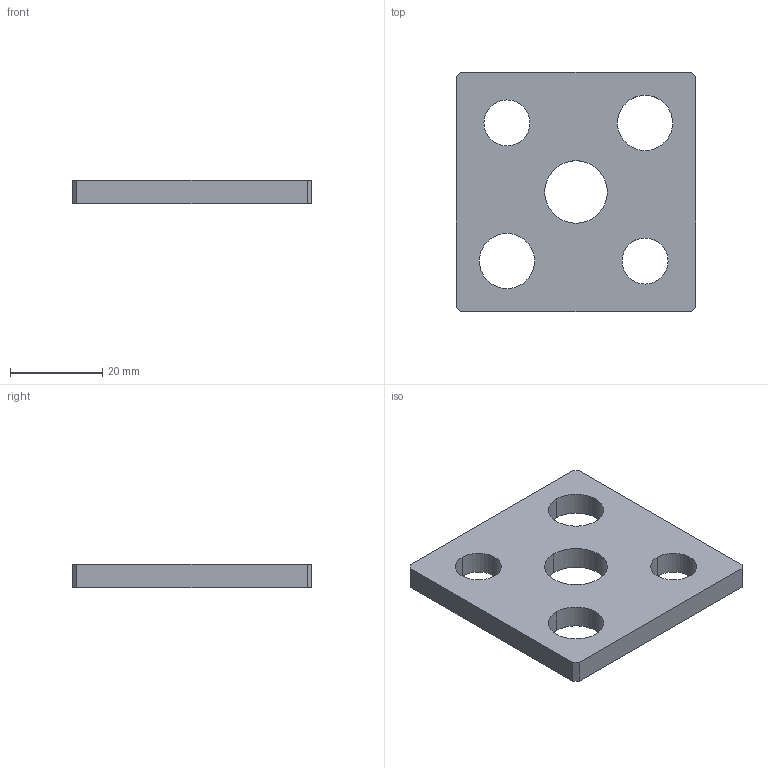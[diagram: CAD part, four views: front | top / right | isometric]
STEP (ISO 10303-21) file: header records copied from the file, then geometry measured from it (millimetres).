
FILE_DESCRIPTION(/* description */ (''),/* implementation_level */ '2;1');
FILE_NAME(/* name */ '3d_mdsp20_04299_r00.stp',/* time_stamp */ '2011-01-10T14:13:54+09:00',/* author */ ('MISUMI'),/* organization */ (''),/* preprocessor_version */ 'ST-DEVELOPER v11',/* originating_system */ 'UGS - NX 5.0',/* authorisation */ '');
FILE_SCHEMA (('CONFIG_CONTROL_DESIGN'));
Length unit declared in the file: millimetre
Products named in the file (1): 3d_mdsp20_04299_r00
Bounding box: 52 x 52 x 5 mm (x, y, z)
Volume: 10867.3 mm3; surface area: 6280 mm2
Topology: 1 solids, 1 shells, 20 faces, 54 edges, 36 vertices
Faces by surface type: plane 10, cylinder 10
Entity records: 744 total; most frequent: DIRECTION 116, CARTESIAN_POINT 111, ORIENTED_EDGE 108, EDGE_CURVE 54, AXIS2_PLACEMENT_3D 41, VERTEX_POINT 36, LINE 34, VECTOR 34
